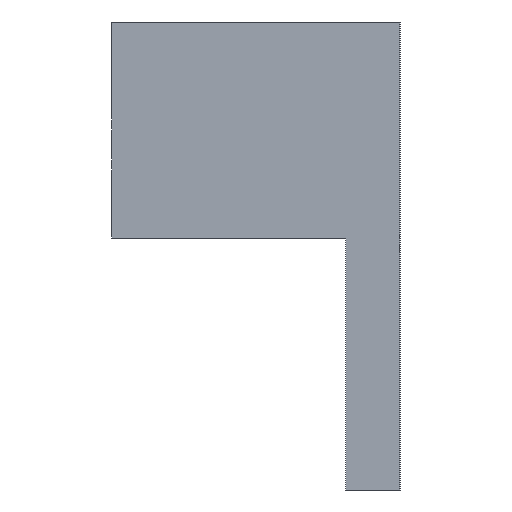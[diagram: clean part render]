
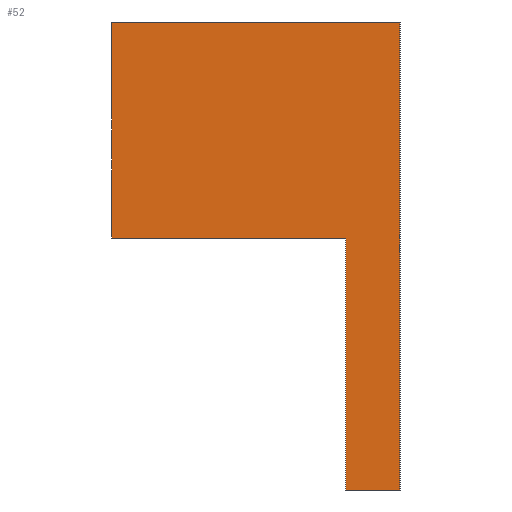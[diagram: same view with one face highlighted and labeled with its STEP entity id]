
A CAD part, left-side view. The second image highlights one B-rep face of the part: STEP entity #52.
In plain terms, the highlighted planar face has unit normal (-1, 0, 0).
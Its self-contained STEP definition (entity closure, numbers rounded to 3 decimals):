
#52 = ADVANCED_FACE( '', ( #103 ), #104, .F. );
#103 = FACE_OUTER_BOUND( '', #150, .T. );
#104 = PLANE( '', #151 );
#150 = EDGE_LOOP( '', ( #225, #226, #227, #228, #229, #230 ) );
#151 = AXIS2_PLACEMENT_3D( '', #231, #232, #233 );
#225 = ORIENTED_EDGE( '', *, *, #284, .F. );
#226 = ORIENTED_EDGE( '', *, *, #264, .F. );
#227 = ORIENTED_EDGE( '', *, *, #269, .F. );
#228 = ORIENTED_EDGE( '', *, *, #257, .F. );
#229 = ORIENTED_EDGE( '', *, *, #277, .F. );
#230 = ORIENTED_EDGE( '', *, *, #272, .F. );
#231 = CARTESIAN_POINT( '', ( -10., 0., 0. ) );
#232 = DIRECTION( '', ( 1., 0., 0. ) );
#233 = DIRECTION( '', ( 0., 0., -1. ) );
#257 = EDGE_CURVE( '', #291, #292, #293, .T. );
#264 = EDGE_CURVE( '', #304, #305, #306, .T. );
#269 = EDGE_CURVE( '', #292, #304, #313, .T. );
#272 = EDGE_CURVE( '', #316, #317, #318, .T. );
#277 = EDGE_CURVE( '', #317, #291, #325, .T. );
#284 = EDGE_CURVE( '', #305, #316, #334, .T. );
#291 = VERTEX_POINT( '', #341 );
#292 = VERTEX_POINT( '', #342 );
#293 = LINE( '', #343, #344 );
#304 = VERTEX_POINT( '', #358 );
#305 = VERTEX_POINT( '', #359 );
#306 = LINE( '', #360, #361 );
#313 = LINE( '', #371, #372 );
#316 = VERTEX_POINT( '', #376 );
#317 = VERTEX_POINT( '', #377 );
#318 = LINE( '', #378, #379 );
#325 = LINE( '', #389, #390 );
#334 = LINE( '', #400, #401 );
#341 = CARTESIAN_POINT( '', ( -10., -13., -20. ) );
#342 = CARTESIAN_POINT( '', ( -10., -13., -6. ) );
#343 = CARTESIAN_POINT( '', ( -10., -13., -20. ) );
#344 = VECTOR( '', #408, 1000. );
#358 = CARTESIAN_POINT( '', ( -10., 0., -6. ) );
#359 = CARTESIAN_POINT( '', ( -10., 0., 6. ) );
#360 = CARTESIAN_POINT( '', ( -10., 0., -6. ) );
#361 = VECTOR( '', #418, 1000. );
#371 = CARTESIAN_POINT( '', ( -10., -13., -6. ) );
#372 = VECTOR( '', #422, 1000. );
#376 = CARTESIAN_POINT( '', ( -10., -16., 6. ) );
#377 = CARTESIAN_POINT( '', ( -10., -16., -20. ) );
#378 = CARTESIAN_POINT( '', ( -10., -16., 6. ) );
#379 = VECTOR( '', #424, 1000. );
#389 = CARTESIAN_POINT( '', ( -10., -16., -20. ) );
#390 = VECTOR( '', #428, 1000. );
#400 = CARTESIAN_POINT( '', ( -10., 0., 6. ) );
#401 = VECTOR( '', #436, 1000. );
#408 = DIRECTION( '', ( 0., 0., 1. ) );
#418 = DIRECTION( '', ( 0., 0., 1. ) );
#422 = DIRECTION( '', ( 0., 1., 0. ) );
#424 = DIRECTION( '', ( 0., 0., -1. ) );
#428 = DIRECTION( '', ( 0., 1., 0. ) );
#436 = DIRECTION( '', ( 0., -1., 0. ) );
